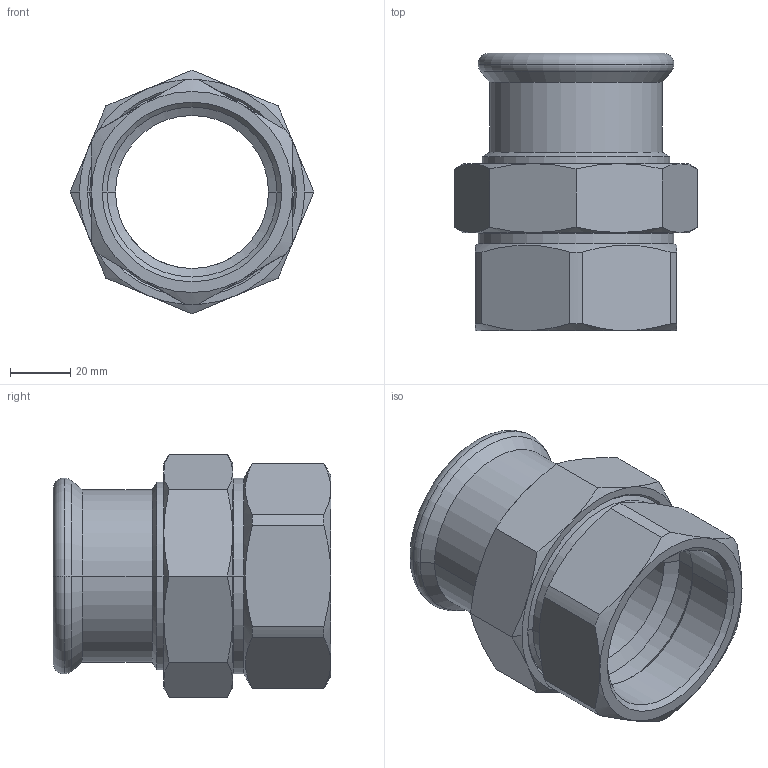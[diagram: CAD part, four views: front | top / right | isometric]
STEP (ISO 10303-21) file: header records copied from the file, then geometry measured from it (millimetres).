
FILE_DESCRIPTION(('CoCreate Modeling STEP Export'),'2;1');
FILE_NAME('C1444 54xRp2.stp','2014-11-12T16:47:15',(''),(''),'CoCreate Modeling STEP processor for AP214 (Solid Model)','CoCreate Modeling 17.00A 17-Jun-2010 (C) Parametric Technology GmbH','');
FILE_SCHEMA(('AUTOMOTIVE_DESIGN { 1 0 10303 214 1 1 1 1 }'));
Length unit declared in the file: millimetre
Products named in the file (2): C1444_54xRp2
Assembly tree (1 placements, depth 2):
  C1444_54xRp2
    C1444_54xRp2
Bounding box: 81.18 x 92.5 x 81.18 mm (x, y, z)
Volume: 110777.4 mm3; surface area: 48515.2 mm2
Topology: 1 solids, 1 shells, 110 faces, 241 edges, 139 vertices
Faces by surface type: cone 50, cylinder 30, plane 22, torus 8
Entity records: 4695 total; most frequent: CARTESIAN_POINT 2679, ORIENTED_EDGE 482, DIRECTION 293, EDGE_CURVE 241, VERTEX_POINT 139, EDGE_LOOP 118, AXIS2_PLACEMENT_3D 110, FACE_OUTER_BOUND 110
